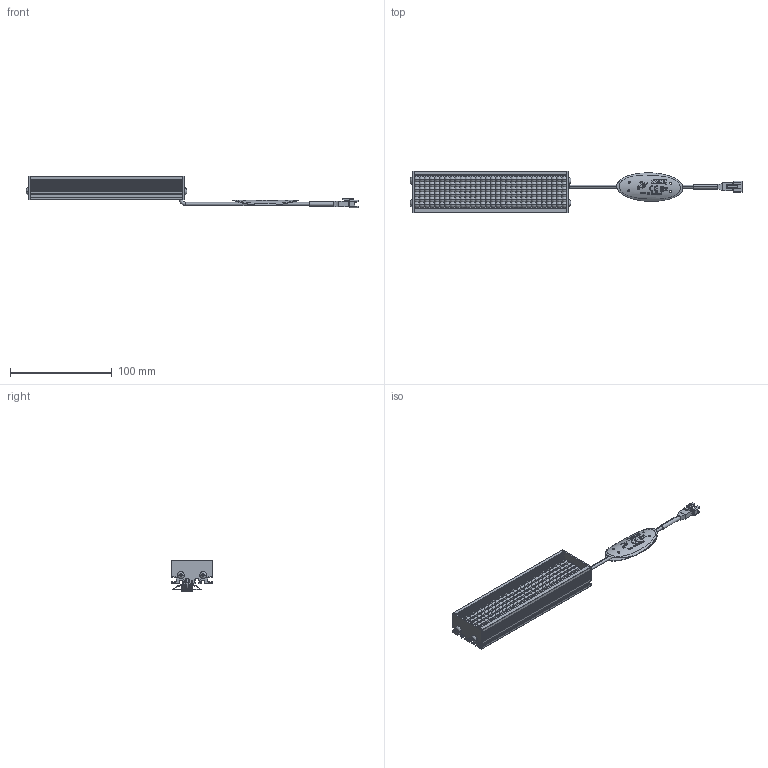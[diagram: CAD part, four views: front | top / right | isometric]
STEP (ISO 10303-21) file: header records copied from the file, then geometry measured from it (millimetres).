
FILE_DESCRIPTION(('STEP AP214'),'1');
FILE_NAME('VBA-15030_DRAWING_3D.step','2023-09-14T01:08:39',(' '),(' '),'Spatial InterOp 3D',' ',' ');
FILE_SCHEMA(('AUTOMOTIVE_DESIGN { 1 0 10303 214 1 1 1 1 }'));
Length unit declared in the file: millimetre
Products named in the file (7): BASE; SIDE PLATE; LED LENS; MXB8146; 3P; CABEL TAG (VS).stp
Assembly tree (12 placements, depth 2):
  (unnamed)
    BASE
    SIDE PLATE  x2
    LED LENS  x3
    MXB8146  x4
    3P
    CABEL TAG (VS).stp
Bounding box: 326 x 41 x 30.5 mm (x, y, z)
Volume: 71134.2 mm3; surface area: 70509.7 mm2
Topology: 13 solids, 13 shells, 1680 faces, 5165 edges, 3567 vertices
Faces by surface type: plane 742, cylinder 558, sphere 360, torus 14, bspline 6
Entity records: 45877 total; most frequent: CARTESIAN_POINT 9980, ORIENTED_EDGE 6106, DIRECTION 5817, EDGE_CURVE 3053, VERTEX_POINT 2155, AXIS2_PLACEMENT_3D 2146, LINE 1525, VECTOR 1525
